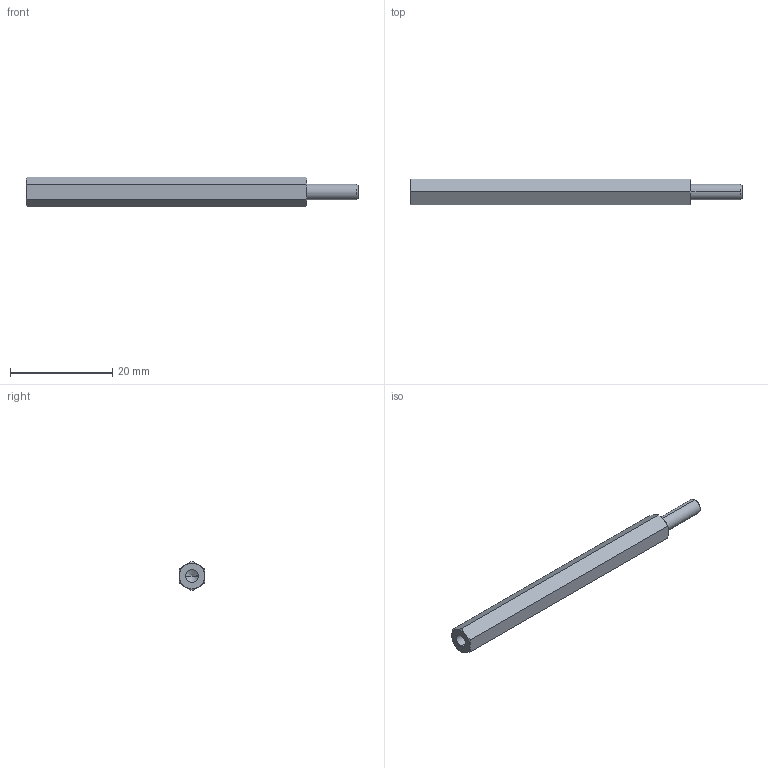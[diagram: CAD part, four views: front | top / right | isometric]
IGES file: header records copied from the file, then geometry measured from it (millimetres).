
Start section: SolidWorks IGES file using analytic representation for surfaces
Global section: file name: C:\Users\render1\Desktop\P0185_IGES\P0185.03-55.igs; native system: SolidWorks 2009; preprocessor: SolidWorks 2009; author: render1; date: 130627.111906; units: millimetre
Bounding box: 65 x 5 x 5.77 mm (x, y, z)
Surface area: 1166 mm2 (no closed solid volume)
Topology: 0 solids, 0 shells, 29 faces, 324 edges, 322 vertices
Faces by surface type: revolution 20, bspline 9
